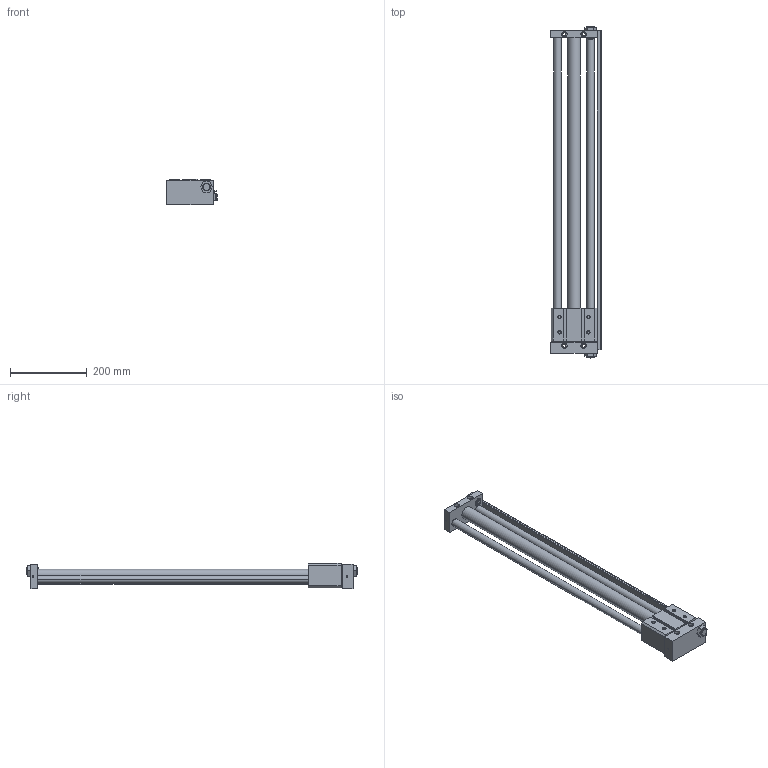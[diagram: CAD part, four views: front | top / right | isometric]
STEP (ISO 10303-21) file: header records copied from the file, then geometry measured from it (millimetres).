
FILE_DESCRIPTION((''),'2;1');
FILE_NAME('C:\Documents and Settings\Administrator\桌面\GYS\GYS32\GYSR32X700.stp','2012-03-06T20:17:04',('Administrator'),(''),'Autodesk Inventor 8','Autodesk Inventor 8','');
FILE_SCHEMA(('AUTOMOTIVE_DESIGN { 1 0 10303 214 1 1 1 1 }'));
Length unit declared in the file: millimetre
Products named in the file (3): GYSR32X700; GYS32X700; GYS32160X700
Assembly tree (2 placements, depth 2):
  GYSR32X700
    GYS32X700
    GYS32160X700
Bounding box: 132.5 x 863 x 66 mm (x, y, z)
Volume: 2158158.7 mm3; surface area: 363039.7 mm2
Topology: 2 solids, 2 shells, 291 faces, 770 edges, 504 vertices
Faces by surface type: plane 161, cylinder 96, cone 28, bspline 6
Entity records: 9200 total; most frequent: CARTESIAN_POINT 1644, DIRECTION 1598, ORIENTED_EDGE 1540, EDGE_CURVE 770, AXIS2_PLACEMENT_3D 538, VECTOR 522, LINE 522, VERTEX_POINT 504
